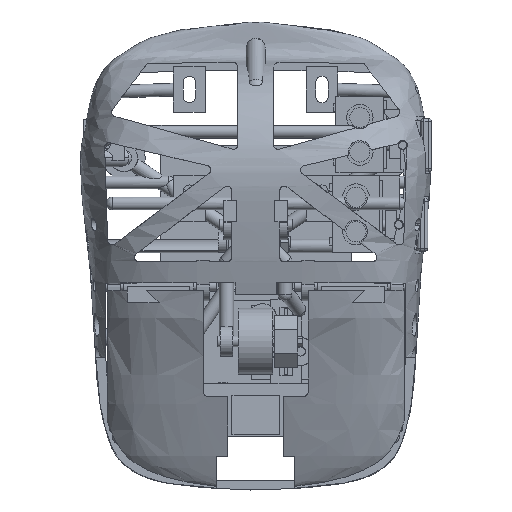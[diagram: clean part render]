
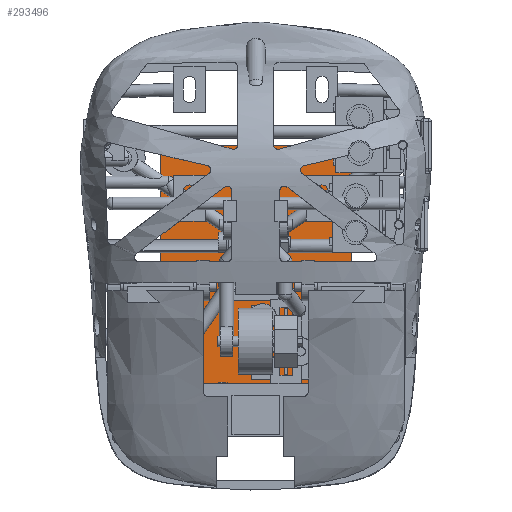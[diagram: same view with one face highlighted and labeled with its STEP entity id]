
A CAD part, top view. The second image highlights one B-rep face of the part: STEP entity #293496.
In plain terms, the highlighted planar face has unit normal (0, 0, 1).
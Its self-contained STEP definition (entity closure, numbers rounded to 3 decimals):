
#293182 = VERTEX_POINT('',#293183);
#293183 = CARTESIAN_POINT('',(-18.,15.,6.));
#293190 = PLANE('',#293191);
#293191 = AXIS2_PLACEMENT_3D('',#293192,#293193,#293194);
#293192 = CARTESIAN_POINT('',(-18.,15.,4.8));
#293193 = DIRECTION('',(1.,0.,0.));
#293194 = DIRECTION('',(0.,0.,1.));
#293202 = PLANE('',#293203);
#293203 = AXIS2_PLACEMENT_3D('',#293204,#293205,#293206);
#293204 = CARTESIAN_POINT('',(-18.,15.,4.8));
#293205 = DIRECTION('',(0.,1.,0.));
#293206 = DIRECTION('',(0.,0.,1.));
#293243 = VERTEX_POINT('',#293244);
#293244 = CARTESIAN_POINT('',(-18.,65.,6.));
#293258 = PLANE('',#293259);
#293259 = AXIS2_PLACEMENT_3D('',#293260,#293261,#293262);
#293260 = CARTESIAN_POINT('',(-18.,65.,4.8));
#293261 = DIRECTION('',(0.,1.,0.));
#293262 = DIRECTION('',(0.,0.,1.));
#293270 = EDGE_CURVE('',#293182,#293243,#293271,.T.);
#293271 = SURFACE_CURVE('',#293272,(#293276,#293283),.PCURVE_S1.);
#293272 = LINE('',#293273,#293274);
#293273 = CARTESIAN_POINT('',(-18.,15.,6.));
#293274 = VECTOR('',#293275,1.);
#293275 = DIRECTION('',(0.,1.,0.));
#293276 = PCURVE('',#293190,#293277);
#293277 = DEFINITIONAL_REPRESENTATION('',(#293278),#293282);
#293278 = LINE('',#293279,#293280);
#293279 = CARTESIAN_POINT('',(1.2,0.));
#293280 = VECTOR('',#293281,1.);
#293281 = DIRECTION('',(0.,-1.));
#293282 = ( GEOMETRIC_REPRESENTATION_CONTEXT(2) 
PARAMETRIC_REPRESENTATION_CONTEXT() REPRESENTATION_CONTEXT('2D SPACE',''
  ) );
#293283 = PCURVE('',#293284,#293289);
#293284 = PLANE('',#293285);
#293285 = AXIS2_PLACEMENT_3D('',#293286,#293287,#293288);
#293286 = CARTESIAN_POINT('',(-18.,15.,6.));
#293287 = DIRECTION('',(0.,0.,1.));
#293288 = DIRECTION('',(1.,0.,0.));
#293289 = DEFINITIONAL_REPRESENTATION('',(#293290),#293294);
#293290 = LINE('',#293291,#293292);
#293291 = CARTESIAN_POINT('',(0.,0.));
#293292 = VECTOR('',#293293,1.);
#293293 = DIRECTION('',(0.,1.));
#293294 = ( GEOMETRIC_REPRESENTATION_CONTEXT(2) 
PARAMETRIC_REPRESENTATION_CONTEXT() REPRESENTATION_CONTEXT('2D SPACE',''
  ) );
#293302 = VERTEX_POINT('',#293303);
#293303 = CARTESIAN_POINT('',(18.,15.,6.));
#293310 = PLANE('',#293311);
#293311 = AXIS2_PLACEMENT_3D('',#293312,#293313,#293314);
#293312 = CARTESIAN_POINT('',(18.,15.,4.8));
#293313 = DIRECTION('',(1.,0.,0.));
#293314 = DIRECTION('',(0.,0.,1.));
#293353 = VERTEX_POINT('',#293354);
#293354 = CARTESIAN_POINT('',(18.,65.,6.));
#293375 = EDGE_CURVE('',#293302,#293353,#293376,.T.);
#293376 = SURFACE_CURVE('',#293377,(#293381,#293388),.PCURVE_S1.);
#293377 = LINE('',#293378,#293379);
#293378 = CARTESIAN_POINT('',(18.,15.,6.));
#293379 = VECTOR('',#293380,1.);
#293380 = DIRECTION('',(0.,1.,0.));
#293381 = PCURVE('',#293310,#293382);
#293382 = DEFINITIONAL_REPRESENTATION('',(#293383),#293387);
#293383 = LINE('',#293384,#293385);
#293384 = CARTESIAN_POINT('',(1.2,0.));
#293385 = VECTOR('',#293386,1.);
#293386 = DIRECTION('',(0.,-1.));
#293387 = ( GEOMETRIC_REPRESENTATION_CONTEXT(2) 
PARAMETRIC_REPRESENTATION_CONTEXT() REPRESENTATION_CONTEXT('2D SPACE',''
  ) );
#293388 = PCURVE('',#293284,#293389);
#293389 = DEFINITIONAL_REPRESENTATION('',(#293390),#293394);
#293390 = LINE('',#293391,#293392);
#293391 = CARTESIAN_POINT('',(36.,0.));
#293392 = VECTOR('',#293393,1.);
#293393 = DIRECTION('',(0.,1.));
#293394 = ( GEOMETRIC_REPRESENTATION_CONTEXT(2) 
PARAMETRIC_REPRESENTATION_CONTEXT() REPRESENTATION_CONTEXT('2D SPACE',''
  ) );
#293421 = EDGE_CURVE('',#293182,#293302,#293422,.T.);
#293422 = SURFACE_CURVE('',#293423,(#293427,#293434),.PCURVE_S1.);
#293423 = LINE('',#293424,#293425);
#293424 = CARTESIAN_POINT('',(-18.,15.,6.));
#293425 = VECTOR('',#293426,1.);
#293426 = DIRECTION('',(1.,0.,0.));
#293427 = PCURVE('',#293202,#293428);
#293428 = DEFINITIONAL_REPRESENTATION('',(#293429),#293433);
#293429 = LINE('',#293430,#293431);
#293430 = CARTESIAN_POINT('',(1.2,0.));
#293431 = VECTOR('',#293432,1.);
#293432 = DIRECTION('',(0.,1.));
#293433 = ( GEOMETRIC_REPRESENTATION_CONTEXT(2) 
PARAMETRIC_REPRESENTATION_CONTEXT() REPRESENTATION_CONTEXT('2D SPACE',''
  ) );
#293434 = PCURVE('',#293284,#293435);
#293435 = DEFINITIONAL_REPRESENTATION('',(#293436),#293440);
#293436 = LINE('',#293437,#293438);
#293437 = CARTESIAN_POINT('',(0.,0.));
#293438 = VECTOR('',#293439,1.);
#293439 = DIRECTION('',(1.,0.));
#293440 = ( GEOMETRIC_REPRESENTATION_CONTEXT(2) 
PARAMETRIC_REPRESENTATION_CONTEXT() REPRESENTATION_CONTEXT('2D SPACE',''
  ) );
#293468 = EDGE_CURVE('',#293243,#293353,#293469,.T.);
#293469 = SURFACE_CURVE('',#293470,(#293474,#293481),.PCURVE_S1.);
#293470 = LINE('',#293471,#293472);
#293471 = CARTESIAN_POINT('',(-18.,65.,6.));
#293472 = VECTOR('',#293473,1.);
#293473 = DIRECTION('',(1.,0.,0.));
#293474 = PCURVE('',#293258,#293475);
#293475 = DEFINITIONAL_REPRESENTATION('',(#293476),#293480);
#293476 = LINE('',#293477,#293478);
#293477 = CARTESIAN_POINT('',(1.2,0.));
#293478 = VECTOR('',#293479,1.);
#293479 = DIRECTION('',(0.,1.));
#293480 = ( GEOMETRIC_REPRESENTATION_CONTEXT(2) 
PARAMETRIC_REPRESENTATION_CONTEXT() REPRESENTATION_CONTEXT('2D SPACE',''
  ) );
#293481 = PCURVE('',#293284,#293482);
#293482 = DEFINITIONAL_REPRESENTATION('',(#293483),#293487);
#293483 = LINE('',#293484,#293485);
#293484 = CARTESIAN_POINT('',(0.,50.));
#293485 = VECTOR('',#293486,1.);
#293486 = DIRECTION('',(1.,0.));
#293487 = ( GEOMETRIC_REPRESENTATION_CONTEXT(2) 
PARAMETRIC_REPRESENTATION_CONTEXT() REPRESENTATION_CONTEXT('2D SPACE',''
  ) );
#293496 = ADVANCED_FACE('',(#293497),#293284,.T.);
#293497 = FACE_BOUND('',#293498,.T.);
#293498 = EDGE_LOOP('',(#293499,#293500,#293501,#293502));
#293499 = ORIENTED_EDGE('',*,*,#293270,.F.);
#293500 = ORIENTED_EDGE('',*,*,#293421,.T.);
#293501 = ORIENTED_EDGE('',*,*,#293375,.T.);
#293502 = ORIENTED_EDGE('',*,*,#293468,.F.);
